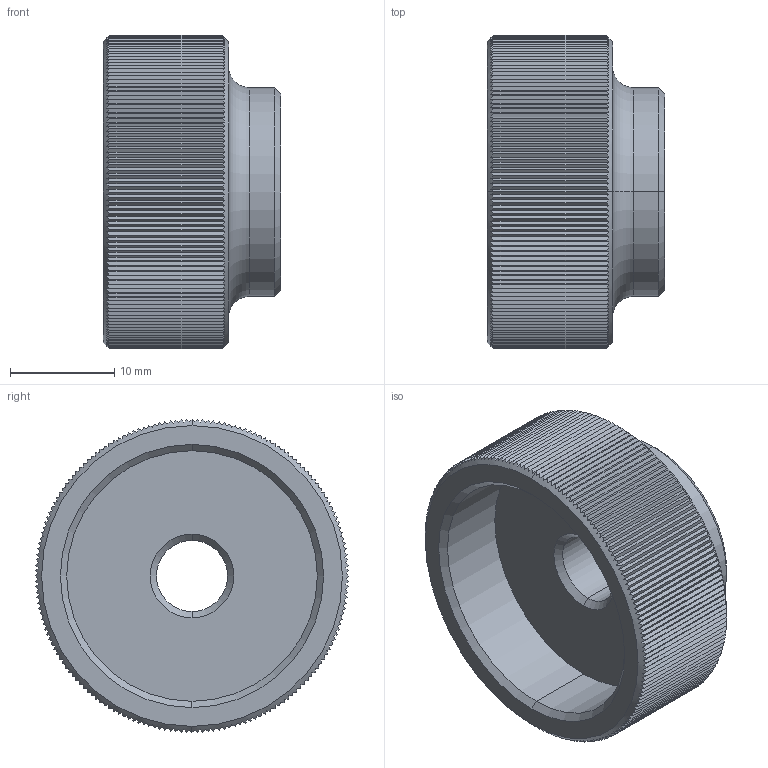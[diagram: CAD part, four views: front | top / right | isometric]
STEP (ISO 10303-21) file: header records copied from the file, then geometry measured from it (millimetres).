
FILE_DESCRIPTION (( 'STEP AP203' ), '1' );
FILE_NAME ('37160.W0008.step', '2011-09-15T08:10:32', ( 'Wixroyd' ), ( 'Wixroyd' ), 'SwSTEP 2.0', 'SolidWorks 2009', '' );
FILE_SCHEMA (( 'CONFIG_CONTROL_DESIGN' ));
Length unit declared in the file: millimetre
Products named in the file (1): 37160.W0008
Bounding box: 17 x 30 x 30 mm (x, y, z)
Volume: 6388.7 mm3; surface area: 3729.1 mm2
Topology: 1 solids, 1 shells, 382 faces, 1122 edges, 744 vertices
Faces by surface type: plane 364, cone 10, cylinder 6, torus 2
Entity records: 13237 total; most frequent: CARTESIAN_POINT 4409, ORIENTED_EDGE 2244, DIRECTION 1194, EDGE_CURVE 1122, VERTEX_POINT 744, B_SPLINE_CURVE_WITH_KNOTS 720, AXIS2_PLACEMENT_3D 409, EDGE_LOOP 386
